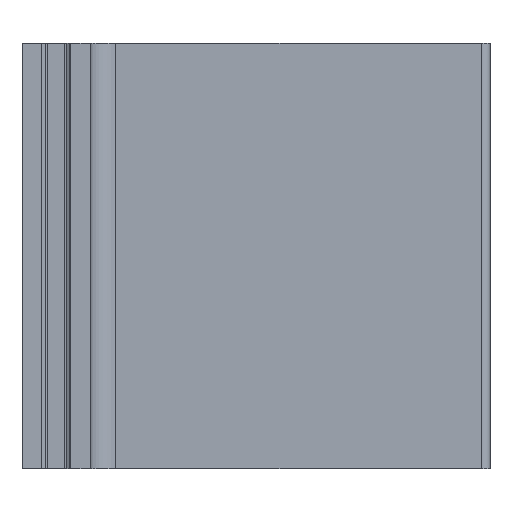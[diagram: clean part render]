
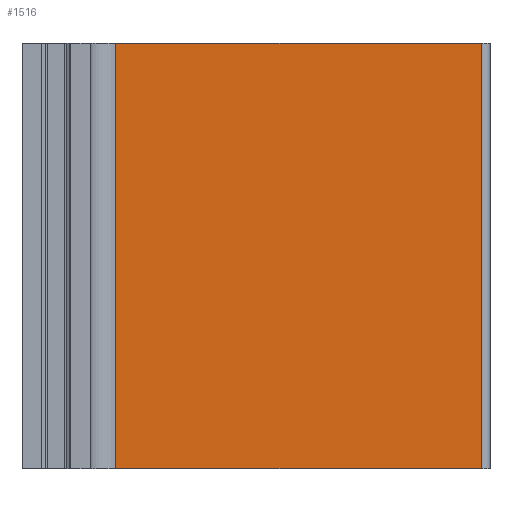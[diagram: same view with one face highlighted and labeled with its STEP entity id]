
A CAD part, front view. The second image highlights one B-rep face of the part: STEP entity #1516.
In plain terms, the highlighted planar face has unit normal (0, -1, 0).
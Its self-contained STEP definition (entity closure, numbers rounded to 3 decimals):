
#1287 = EDGE_CURVE ( 'NONE', #2065, #6793, #5819, .T. ) ;
#1348 = ORIENTED_EDGE ( 'NONE', *, *, #1287, .T. ) ;
#1476 = EDGE_LOOP ( 'NONE', ( #1348, #6254, #5114, #4187 ) ) ;
#1516 = ADVANCED_FACE ( 'NONE', ( #6690 ), #6691, .F. ) ;
#1854 = VERTEX_POINT ( 'NONE', #8039 ) ;
#1907 = EDGE_CURVE ( 'NONE', #1854, #2065, #8084, .T. ) ;
#2065 = VERTEX_POINT ( 'NONE', #8434 ) ;
#4163 = LINE ( 'NONE', #4170, #4171 ) ;
#4170 = CARTESIAN_POINT ( 'NONE',  ( 54., 14., 50. ) ) ;
#4171 = VECTOR ( 'NONE', #4172, 1000. ) ;
#4172 = DIRECTION ( 'NONE',  ( 1., 0., 0. ) ) ;
#4187 = ORIENTED_EDGE ( 'NONE', *, *, #1907, .T. ) ;
#4743 = EDGE_CURVE ( 'NONE', #1854, #5649, #4163, .T. ) ;
#4755 = CARTESIAN_POINT ( 'NONE',  ( 54., 14., 50. ) ) ;
#4940 = LINE ( 'NONE', #4941, #4942 ) ;
#4941 = CARTESIAN_POINT ( 'NONE',  ( 54., 14., 50. ) ) ;
#4942 = VECTOR ( 'NONE', #4943, 1000. ) ;
#4943 = DIRECTION ( 'NONE',  ( 0., 0., -1. ) ) ;
#5114 = ORIENTED_EDGE ( 'NONE', *, *, #4743, .F. ) ;
#5579 = CARTESIAN_POINT ( 'NONE',  ( 54., 14., 0. ) ) ;
#5649 = VERTEX_POINT ( 'NONE', #4755 ) ;
#5819 = LINE ( 'NONE', #5820, #5821 ) ;
#5820 = CARTESIAN_POINT ( 'NONE',  ( 54., 14., 0. ) ) ;
#5821 = VECTOR ( 'NONE', #5822, 1000. ) ;
#5822 = DIRECTION ( 'NONE',  ( 1., 0., 0. ) ) ;
#5886 = EDGE_CURVE ( 'NONE', #5649, #6793, #4940, .T. ) ;
#6254 = ORIENTED_EDGE ( 'NONE', *, *, #5886, .F. ) ;
#6690 = FACE_OUTER_BOUND ( 'NONE', #1476, .T. ) ;
#6691 = PLANE ( 'NONE',  #6692 ) ;
#6692 = AXIS2_PLACEMENT_3D ( 'NONE', #6693, #6694, #6695 ) ;
#6693 = CARTESIAN_POINT ( 'NONE',  ( 54., 14., 50. ) ) ;
#6694 = DIRECTION ( 'NONE',  ( 0., 1., 0. ) ) ;
#6695 = DIRECTION ( 'NONE',  ( 0., 0., 1. ) ) ;
#6793 = VERTEX_POINT ( 'NONE', #5579 ) ;
#8039 = CARTESIAN_POINT ( 'NONE',  ( 11., 14., 50. ) ) ;
#8084 = LINE ( 'NONE', #8085, #8086 ) ;
#8085 = CARTESIAN_POINT ( 'NONE',  ( 11., 14., 50. ) ) ;
#8086 = VECTOR ( 'NONE', #8087, 1000. ) ;
#8087 = DIRECTION ( 'NONE',  ( 0., 0., -1. ) ) ;
#8434 = CARTESIAN_POINT ( 'NONE',  ( 11., 14., 0. ) ) ;
